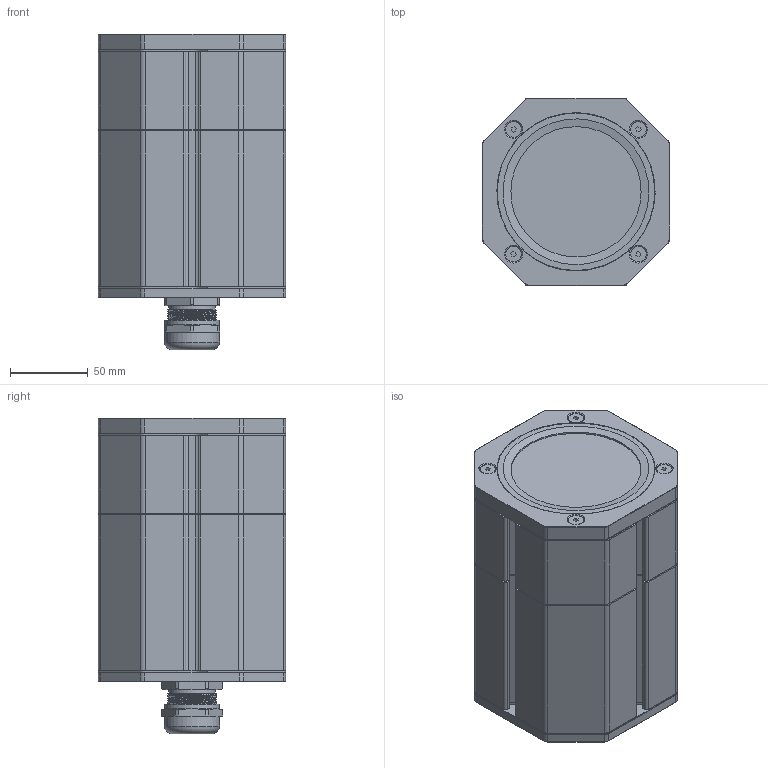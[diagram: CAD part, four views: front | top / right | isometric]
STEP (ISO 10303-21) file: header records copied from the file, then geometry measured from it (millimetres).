
FILE_DESCRIPTION(/* description */ (''),/* implementation_level */ '2;1');
FILE_NAME(/* name */ 'FG-CH87-V0-050-100-F1.1-B1.1.stp',/* time_stamp */ '2026-05-06T18:27:56+02:00',/* author */ ('roman'),/* organization */ (''),/* preprocessor_version */ 'ST-DEVELOPER v20',/* originating_system */ 'Autodesk Inventor 2024',/* authorisation */ '');
FILE_SCHEMA (('AUTOMOTIVE_DESIGN { 1 0 10303 214 3 1 1 }'));
Length unit declared in the file: millimetre
Products named in the file (16): FG-CH87-V0-050-100-F01-B01; SUB-CH87-MID-V0-050-100; CH87-BDB-V0-100; CH87-ROD-150; CH87-BDF-V0-050; SUB-CH87-BCK-B1.1; CH87-CPB-RD; SKINTOP 32x1.5; Matice pruchodky M32x1,5; CH87-SL1; SUB-CH87-FRT-F1.1; CH87-CPF-RD; CH87-GLS; CH87-SLW; CH87-SL2; DIN 7991 - M5x20
Assembly tree (26 placements, depth 3):
  FG-CH87-V0-050-100-F01-B01
    SUB-CH87-MID-V0-050-100
      CH87-BDB-V0-100
      CH87-ROD-150  x4
      CH87-SL1
      CH87-BDF-V0-050
    SUB-CH87-BCK-B1.1
      CH87-CPB-RD
      SKINTOP 32x1.5
      Matice pruchodky M32x1,5
    CH87-SL1
    DIN 7991 - M5x20  x8
    SUB-CH87-FRT-F1.1
      CH87-CPF-RD
      CH87-GLS
      CH87-SLW
    CH87-SL2
Bounding box: 120 x 120 x 202.4 mm (x, y, z)
Volume: 688067.3 mm3; surface area: 393984.4 mm2
Topology: 23 solids, 23 shells, 1025 faces, 2750 edges, 1777 vertices
Faces by surface type: plane 459, cylinder 456, cone 98, torus 9, bspline 3
Full cylindrical faces by diameter (mm): 4 x4, 5 x8, 5.5 x4, 6 x8, 6.8 x20, 8.5 x4, 10 x8, 21.4 x1, 25 x1, 30 x2, 30.376 x1, 32 x6, 32.2 x1, 32.5 x1, 35.3 x2, 83 x1, 83.5 x1, 85.5 x3, 87 x5, 101 x1, 101.5 x1
Entity records: 26307 total; most frequent: CARTESIAN_POINT 5494, DIRECTION 4428, ORIENTED_EDGE 4134, EDGE_CURVE 2067, AXIS2_PLACEMENT_3D 1616, VERTEX_POINT 1340, LINE 1196, VECTOR 1196
